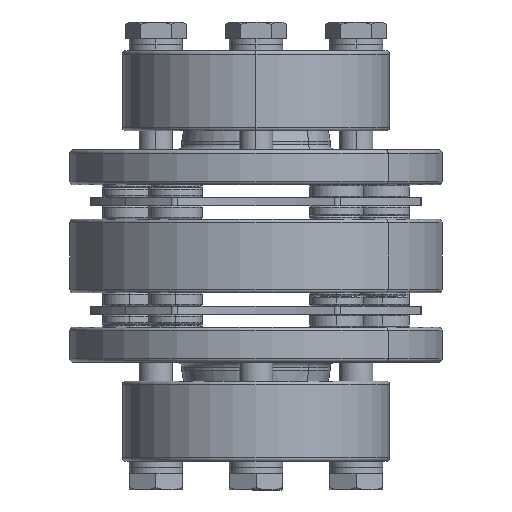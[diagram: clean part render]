
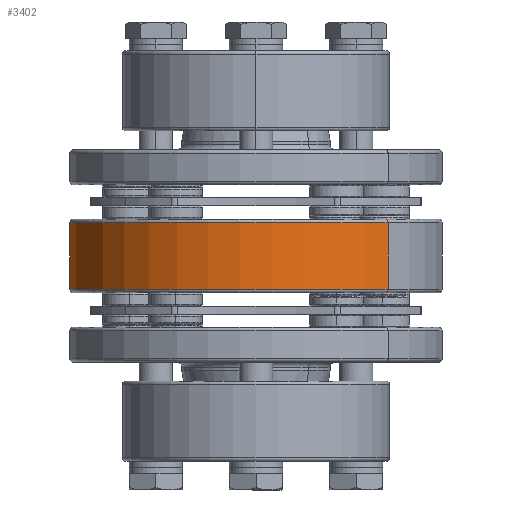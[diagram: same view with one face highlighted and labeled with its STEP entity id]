
A CAD part, left-side view. The second image highlights one B-rep face of the part: STEP entity #3402.
In plain terms, the highlighted cylindrical face has radius 28 mm (diameter 56 mm), a partial arc.
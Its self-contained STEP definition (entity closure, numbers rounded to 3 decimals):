
#3378 = VERTEX_POINT ( 'NONE', #9944 ) ;
#3380 = EDGE_CURVE ( 'NONE', #3378, #3382, #9942, .T. ) ;
#3382 = VERTEX_POINT ( 'NONE', #10001 ) ;
#3402 = ADVANCED_FACE ( 'NONE', ( #10032 ), #10030, .T. ) ;
#3412 = EDGE_LOOP ( 'NONE', ( #3413, #3473, #3466, #3472 ) ) ;
#3413 = ORIENTED_EDGE ( 'NONE', *, *, #3380, .T. ) ;
#3415 = VERTEX_POINT ( 'NONE', #10068 ) ;
#3420 = VERTEX_POINT ( 'NONE', #10062 ) ;
#3421 = EDGE_CURVE ( 'NONE', #3420, #3415, #10060, .T. ) ;
#3466 = ORIENTED_EDGE ( 'NONE', *, *, #3421, .T. ) ;
#3469 = EDGE_CURVE ( 'NONE', #3378, #3415, #10167, .T. ) ;
#3471 = EDGE_CURVE ( 'NONE', #3382, #3420, #10163, .T. ) ;
#3472 = ORIENTED_EDGE ( 'NONE', *, *, #3469, .F. ) ;
#3473 = ORIENTED_EDGE ( 'NONE', *, *, #3471, .T. ) ;
#8929 = DIRECTION ( 'NONE',  ( 0., 0., -1. ) ) ;
#9939 = DIRECTION ( 'NONE',  ( -1., 0., 0. ) ) ;
#9940 = CARTESIAN_POINT ( 'NONE',  ( 5., 0., 0. ) ) ;
#9941 = AXIS2_PLACEMENT_3D ( 'NONE', #9940, #9939, #8929 ) ;
#9942 = CIRCLE ( 'NONE', #9941, 28. ) ;
#9944 = CARTESIAN_POINT ( 'NONE',  ( 5., 0., 28. ) ) ;
#10001 = CARTESIAN_POINT ( 'NONE',  ( 5., 0., -28. ) ) ;
#10025 = DIRECTION ( 'NONE',  ( 0., 0., 1. ) ) ;
#10026 = DIRECTION ( 'NONE',  ( -1., 0., 0. ) ) ;
#10027 = CARTESIAN_POINT ( 'NONE',  ( 5.5, 0., 0. ) ) ;
#10028 = AXIS2_PLACEMENT_3D ( 'NONE', #10027, #10026, #10025 ) ;
#10030 = CYLINDRICAL_SURFACE ( 'NONE', #10028, 28. ) ;
#10032 = FACE_OUTER_BOUND ( 'NONE', #3412, .T. ) ;
#10056 = DIRECTION ( 'NONE',  ( 0., 0., -1. ) ) ;
#10057 = DIRECTION ( 'NONE',  ( 1., 0., 0. ) ) ;
#10058 = CARTESIAN_POINT ( 'NONE',  ( -5., 0., 0. ) ) ;
#10059 = AXIS2_PLACEMENT_3D ( 'NONE', #10058, #10057, #10056 ) ;
#10060 = CIRCLE ( 'NONE', #10059, 28. ) ;
#10062 = CARTESIAN_POINT ( 'NONE',  ( -5., 0., -28. ) ) ;
#10068 = CARTESIAN_POINT ( 'NONE',  ( -5., 0., 28. ) ) ;
#10160 = DIRECTION ( 'NONE',  ( -1., 0., 0. ) ) ;
#10161 = VECTOR ( 'NONE', #10160, 1000. ) ;
#10162 = CARTESIAN_POINT ( 'NONE',  ( 5.5, 0., -28. ) ) ;
#10163 = LINE ( 'NONE', #10162, #10161 ) ;
#10164 = DIRECTION ( 'NONE',  ( -1., 0., 0. ) ) ;
#10165 = VECTOR ( 'NONE', #10164, 1000. ) ;
#10166 = CARTESIAN_POINT ( 'NONE',  ( 5.5, 0., 28. ) ) ;
#10167 = LINE ( 'NONE', #10166, #10165 ) ;
